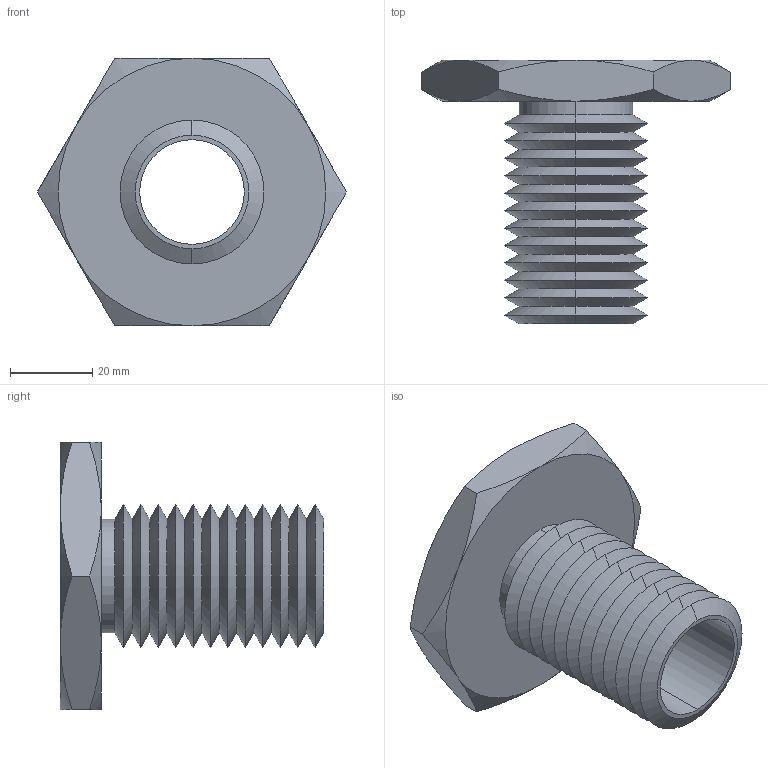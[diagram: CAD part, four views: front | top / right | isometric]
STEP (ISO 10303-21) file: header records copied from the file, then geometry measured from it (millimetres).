
FILE_DESCRIPTION (( 'STEP AP203' ), '1' );
FILE_NAME ('63302.W5138_1,00 UNC-8.step', '2013-12-08T11:44:35', ( 'User' ), ( '' ), 'SwSTEP 2.0', 'SolidWorks 2009', '' );
FILE_SCHEMA (( 'CONFIG_CONTROL_DESIGN' ));
Length unit declared in the file: millimetre
Products named in the file (1): 63302.W5138_1,00 UNC-8
Bounding box: 75.06 x 64 x 65 mm (x, y, z)
Volume: 44219.4 mm3; surface area: 23437.8 mm2
Topology: 1 solids, 1 shells, 75 faces, 154 edges, 82 vertices
Faces by surface type: cone 62, plane 9, cylinder 4
Entity records: 2139 total; most frequent: CARTESIAN_POINT 496, DIRECTION 352, ORIENTED_EDGE 308, EDGE_CURVE 154, AXIS2_PLACEMENT_3D 146, VERTEX_POINT 82, EDGE_LOOP 78, ADVANCED_FACE 75
